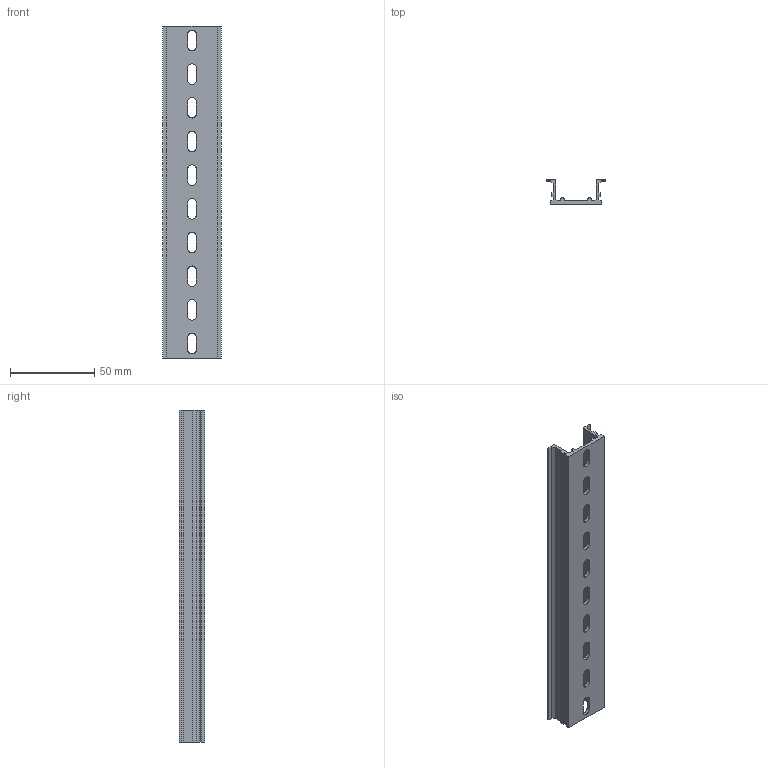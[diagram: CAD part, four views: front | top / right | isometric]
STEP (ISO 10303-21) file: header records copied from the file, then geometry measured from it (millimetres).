
FILE_DESCRIPTION(/* description */ (''),/* implementation_level */ '2;1');
FILE_NAME(/* name */ '22649-(TKB KD-10)HP 3D.stp',/* time_stamp */ '2024-12-05T13:30:04+09:00',/* author */ ('usercadg104'),/* organization */ (''),/* preprocessor_version */ 'ST-DEVELOPER v19.2',/* originating_system */ 'Autodesk Inventor 2023',/* authorisation */ '');
FILE_SCHEMA (('CONFIG_CONTROL_DESIGN'));
Length unit declared in the file: millimetre
Products named in the file (1): TKB KD-3(林)
Bounding box: 35 x 15 x 197 mm (x, y, z)
Volume: 23035.8 mm3; surface area: 26793.1 mm2
Topology: 1 solids, 1 shells, 80 faces, 234 edges, 156 vertices
Faces by surface type: plane 56, cylinder 24
Entity records: 2729 total; most frequent: CARTESIAN_POINT 471, ORIENTED_EDGE 468, DIRECTION 444, EDGE_CURVE 234, LINE 186, VECTOR 186, VERTEX_POINT 156, AXIS2_PLACEMENT_3D 129
